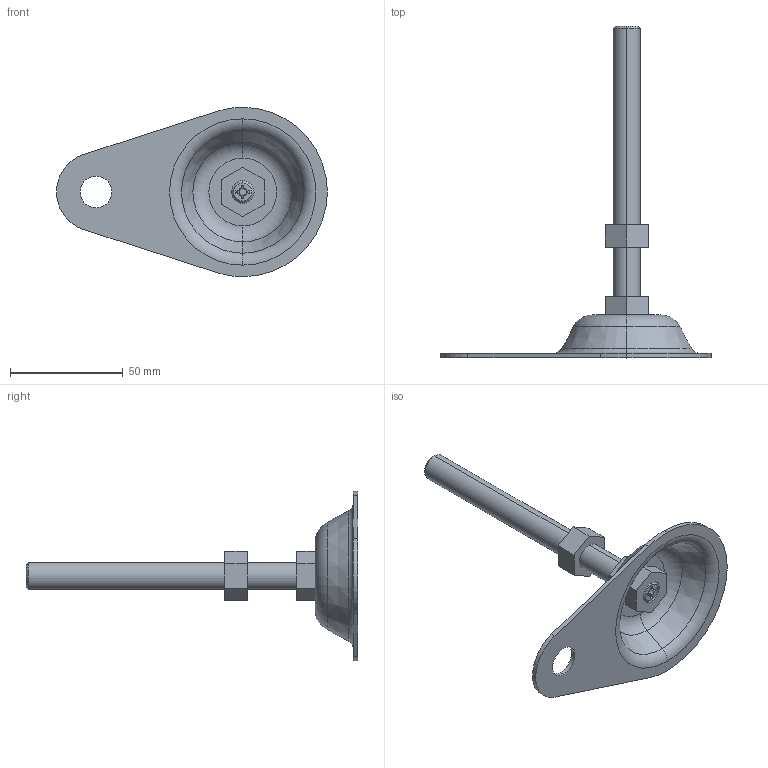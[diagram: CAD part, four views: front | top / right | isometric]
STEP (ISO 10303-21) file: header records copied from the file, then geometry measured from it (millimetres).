
FILE_DESCRIPTION (( 'STEP AP214' ), '1' );
FILE_NAME ('EA18S-12120.STEP', '2016-01-17T16:46:42', ( '' ), ( '' ), 'SwSTEP 2.0', 'SolidWorks 2012', '' );
FILE_SCHEMA (( 'AUTOMOTIVE_DESIGN' ));
Length unit declared in the file: millimetre
Products named in the file (1): EA18S-12120
Bounding box: 119.94 x 147 x 75 mm (x, y, z)
Volume: 35410.5 mm3; surface area: 22270.3 mm2
Topology: 1 solids, 1 shells, 75 faces, 180 edges, 116 vertices
Faces by surface type: plane 43, cone 12, cylinder 12, torus 8
Entity records: 2248 total; most frequent: CARTESIAN_POINT 420, DIRECTION 384, ORIENTED_EDGE 360, EDGE_CURVE 180, AXIS2_PLACEMENT_3D 136, VERTEX_POINT 116, LINE 112, VECTOR 112
